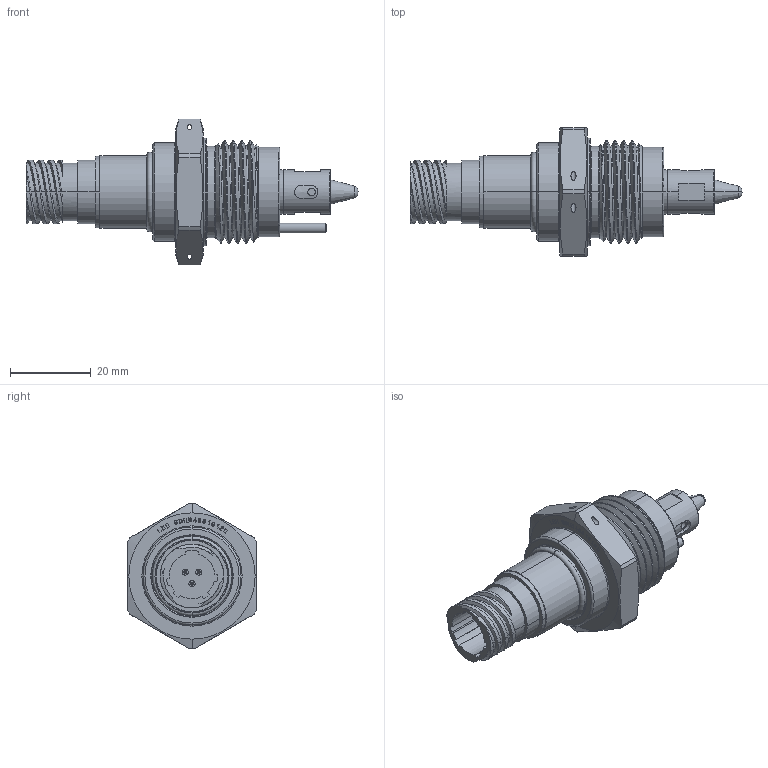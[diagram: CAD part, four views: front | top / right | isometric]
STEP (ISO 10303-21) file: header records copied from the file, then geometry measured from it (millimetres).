
FILE_DESCRIPTION(('Creo Elements/Direct Modeling STEP Export'),'2;1');
FILE_NAME('SDHB4331012E.stp','2021-04-08T 9:24:45',(''),(''),'Creo Elements/Direct Modeling STEP processor for AP214 (Solid Model)','Creo Elements/Direct Modeling 18.1 03-Mar-2012 (C) Parametric Technology GmbH','');
FILE_SCHEMA(('AUTOMOTIVE_DESIGN { 1 0 10303 214 1 1 1 1 }'));
Length unit declared in the file: millimetre
Products named in the file (2): SDHB4331012E
Assembly tree (1 placements, depth 2):
  SDHB4331012E
    SDHB4331012E
Bounding box: 82.12 x 31.75 x 36.08 mm (x, y, z)
Volume: 22843.7 mm3; surface area: 8180.7 mm2
Topology: 1 solids, 1 shells, 740 faces, 2034 edges, 1343 vertices
Faces by surface type: plane 568, cylinder 107, torus 32, cone 23, bspline 8, sphere 2
Entity records: 28332 total; most frequent: CARTESIAN_POINT 9351, ORIENTED_EDGE 4064, DIRECTION 3269, EDGE_CURVE 2032, VECTOR 1621, LINE 1621, VERTEX_POINT 1343, AXIS2_PLACEMENT_3D 824
